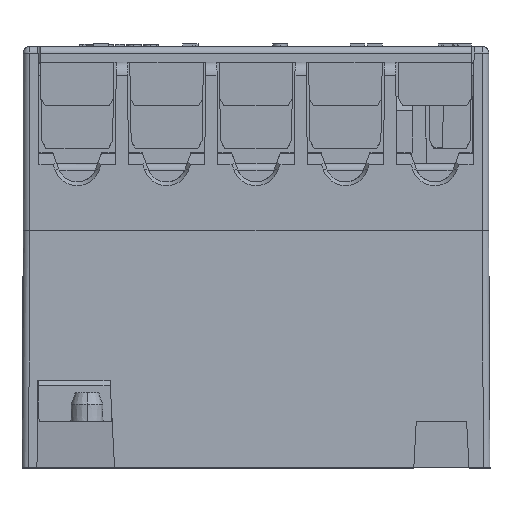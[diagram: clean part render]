
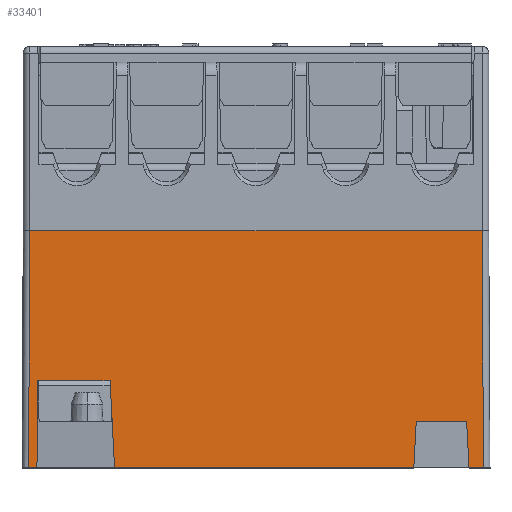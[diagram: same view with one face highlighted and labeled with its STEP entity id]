
A CAD part, top view. The second image highlights one B-rep face of the part: STEP entity #33401.
In plain terms, the highlighted planar face has unit normal (0, 0.005, 1).
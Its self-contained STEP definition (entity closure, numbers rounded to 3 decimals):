
#105 = DIRECTION ( 'NONE',  ( 1., 0., 0. ) ) ;
#749 = VERTEX_POINT ( 'NONE', #44532 ) ;
#1511 = CARTESIAN_POINT ( 'NONE',  ( 0., 0., 16.594 ) ) ;
#3998 = ORIENTED_EDGE ( 'NONE', *, *, #66597, .T. ) ;
#4409 = ORIENTED_EDGE ( 'NONE', *, *, #40151, .T. ) ;
#4573 = VECTOR ( 'NONE', #55852, 1000. ) ;
#4830 = CARTESIAN_POINT ( 'NONE',  ( 0., 3.5, 16.576 ) ) ;
#5017 = CARTESIAN_POINT ( 'NONE',  ( -16.658, 0., 16.594 ) ) ;
#5663 = DIRECTION ( 'NONE',  ( 1., 0., 0. ) ) ;
#5965 = VECTOR ( 'NONE', #32850, 1000. ) ;
#7338 = CARTESIAN_POINT ( 'NONE',  ( -11.1, 6.6, 16.56 ) ) ;
#7765 = DIRECTION ( 'NONE',  ( 1., 0., 0. ) ) ;
#8147 = VERTEX_POINT ( 'NONE', #35492 ) ;
#10031 = LINE ( 'NONE', #18415, #43750 ) ;
#10405 = EDGE_CURVE ( 'NONE', #65365, #37496, #59190, .T. ) ;
#11196 = DIRECTION ( 'NONE',  ( 1., 0., 0. ) ) ;
#13987 = PLANE ( 'NONE',  #41079 ) ;
#14678 = EDGE_CURVE ( 'NONE', #52394, #65365, #59550, .T. ) ;
#15547 = LINE ( 'NONE', #70782, #63999 ) ;
#15693 = LINE ( 'NONE', #34571, #64147 ) ;
#17064 = ORIENTED_EDGE ( 'NONE', *, *, #54380, .T. ) ;
#17453 = CARTESIAN_POINT ( 'NONE',  ( -11.714, 18.314, 16.498 ) ) ;
#18233 = ORIENTED_EDGE ( 'NONE', *, *, #70821, .F. ) ;
#18415 = CARTESIAN_POINT ( 'NONE',  ( -17.7, 18., 16.5 ) ) ;
#19255 = VECTOR ( 'NONE', #61638, 1000. ) ;
#20342 = CARTESIAN_POINT ( 'NONE',  ( -16.6, 6.6, 16.56 ) ) ;
#20763 = ORIENTED_EDGE ( 'NONE', *, *, #73972, .T. ) ;
#24527 = EDGE_LOOP ( 'NONE', ( #18233, #3998, #68759, #53581, #75453, #52033, #20763, #44023, #4409, #44412, #38884, #17064 ) ) ;
#25965 = CARTESIAN_POINT ( 'NONE',  ( 12.183, 3.5, 16.576 ) ) ;
#26726 = DIRECTION ( 'NONE',  ( 1., 0., 0. ) ) ;
#27668 = CARTESIAN_POINT ( 'NONE',  ( 17.2, 18., 16.5 ) ) ;
#28316 = FACE_OUTER_BOUND ( 'NONE', #24527, .T. ) ;
#28347 = VERTEX_POINT ( 'NONE', #53645 ) ;
#31577 = CARTESIAN_POINT ( 'NONE',  ( -11.1, 6.6, 16.56 ) ) ;
#32233 = VECTOR ( 'NONE', #68945, 1000. ) ;
#32776 = EDGE_CURVE ( 'NONE', #63935, #70906, #69847, .T. ) ;
#32850 = DIRECTION ( 'NONE',  ( -1., 0., 0. ) ) ;
#33372 = DIRECTION ( 'NONE',  ( 0., 0.005, 1. ) ) ;
#33401 = ADVANCED_FACE ( 'NONE', ( #28316 ), #13987, .T. ) ;
#33863 = CARTESIAN_POINT ( 'NONE',  ( 15.166, 19.722, 16.491 ) ) ;
#34571 = CARTESIAN_POINT ( 'NONE',  ( 12.005, 0.087, 16.594 ) ) ;
#35492 = CARTESIAN_POINT ( 'NONE',  ( 12., 0., 16.594 ) ) ;
#37035 = EDGE_CURVE ( 'NONE', #28347, #63935, #81770, .T. ) ;
#37496 = VERTEX_POINT ( 'NONE', #62182 ) ;
#38884 = ORIENTED_EDGE ( 'NONE', *, *, #10405, .T. ) ;
#39667 = CARTESIAN_POINT ( 'NONE',  ( 16.2, 0., 16.594 ) ) ;
#40151 = EDGE_CURVE ( 'NONE', #67615, #52394, #46740, .T. ) ;
#41079 = AXIS2_PLACEMENT_3D ( 'NONE', #71164, #33372, #77539 ) ;
#43651 = VECTOR ( 'NONE', #59533, 1000. ) ;
#43750 = VECTOR ( 'NONE', #5663, 1000. ) ;
#44023 = ORIENTED_EDGE ( 'NONE', *, *, #44373, .F. ) ;
#44331 = CARTESIAN_POINT ( 'NONE',  ( 0., 0., 16.594 ) ) ;
#44373 = EDGE_CURVE ( 'NONE', #67615, #8147, #15693, .T. ) ;
#44412 = ORIENTED_EDGE ( 'NONE', *, *, #14678, .T. ) ;
#44532 = CARTESIAN_POINT ( 'NONE',  ( -10.754, 0., 16.594 ) ) ;
#44746 = VECTOR ( 'NONE', #77993, 1000. ) ;
#44775 = VECTOR ( 'NONE', #11196, 1000. ) ;
#45665 = VERTEX_POINT ( 'NONE', #31577 ) ;
#46740 = LINE ( 'NONE', #4830, #44775 ) ;
#49524 = CARTESIAN_POINT ( 'NONE',  ( -16.501, 17.99, 16.5 ) ) ;
#50155 = VECTOR ( 'NONE', #105, 1000. ) ;
#52033 = ORIENTED_EDGE ( 'NONE', *, *, #78240, .F. ) ;
#52394 = VERTEX_POINT ( 'NONE', #73491 ) ;
#53165 = CARTESIAN_POINT ( 'NONE',  ( 17.199, 18.183, 16.499 ) ) ;
#53563 = DIRECTION ( 'NONE',  ( -0.052, -0.999, 0.005 ) ) ;
#53581 = ORIENTED_EDGE ( 'NONE', *, *, #32776, .T. ) ;
#53645 = CARTESIAN_POINT ( 'NONE',  ( -17.294, 0., 16.594 ) ) ;
#54380 = EDGE_CURVE ( 'NONE', #37496, #59600, #60394, .T. ) ;
#55852 = DIRECTION ( 'NONE',  ( 0.009, 1., -0.005 ) ) ;
#57195 = VECTOR ( 'NONE', #26726, 1000. ) ;
#59190 = LINE ( 'NONE', #1511, #57195 ) ;
#59533 = DIRECTION ( 'NONE',  ( -0.005, 1., -0.005 ) ) ;
#59550 = LINE ( 'NONE', #33863, #44746 ) ;
#59600 = VERTEX_POINT ( 'NONE', #27668 ) ;
#59678 = CARTESIAN_POINT ( 'NONE',  ( -17.2, 18., 16.5 ) ) ;
#60394 = LINE ( 'NONE', #53165, #43651 ) ;
#61638 = DIRECTION ( 'NONE',  ( -0.052, 0.999, -0.005 ) ) ;
#62182 = CARTESIAN_POINT ( 'NONE',  ( 17.294, 0., 16.594 ) ) ;
#63935 = VERTEX_POINT ( 'NONE', #5017 ) ;
#63999 = VECTOR ( 'NONE', #7765, 1000. ) ;
#64147 = VECTOR ( 'NONE', #53563, 1000. ) ;
#64359 = VERTEX_POINT ( 'NONE', #59678 ) ;
#65365 = VERTEX_POINT ( 'NONE', #39667 ) ;
#66597 = EDGE_CURVE ( 'NONE', #64359, #28347, #67783, .T. ) ;
#67615 = VERTEX_POINT ( 'NONE', #25965 ) ;
#67783 = LINE ( 'NONE', #69231, #32233 ) ;
#68759 = ORIENTED_EDGE ( 'NONE', *, *, #37035, .T. ) ;
#68945 = DIRECTION ( 'NONE',  ( -0.005, -1., 0.005 ) ) ;
#69231 = CARTESIAN_POINT ( 'NONE',  ( -17.2, 17.997, 16.5 ) ) ;
#69630 = LINE ( 'NONE', #17453, #19255 ) ;
#69847 = LINE ( 'NONE', #49524, #4573 ) ;
#70782 = CARTESIAN_POINT ( 'NONE',  ( 0., 0., 16.594 ) ) ;
#70821 = EDGE_CURVE ( 'NONE', #64359, #59600, #10031, .T. ) ;
#70906 = VERTEX_POINT ( 'NONE', #20342 ) ;
#71164 = CARTESIAN_POINT ( 'NONE',  ( -17.7, 18., 16.5 ) ) ;
#73214 = LINE ( 'NONE', #7338, #5965 ) ;
#73491 = CARTESIAN_POINT ( 'NONE',  ( 16.017, 3.5, 16.576 ) ) ;
#73972 = EDGE_CURVE ( 'NONE', #749, #8147, #15547, .T. ) ;
#75453 = ORIENTED_EDGE ( 'NONE', *, *, #80882, .F. ) ;
#77539 = DIRECTION ( 'NONE',  ( 0., -1., 0.005 ) ) ;
#77993 = DIRECTION ( 'NONE',  ( 0.052, -0.999, 0.005 ) ) ;
#78240 = EDGE_CURVE ( 'NONE', #749, #45665, #69630, .T. ) ;
#80882 = EDGE_CURVE ( 'NONE', #45665, #70906, #73214, .T. ) ;
#81770 = LINE ( 'NONE', #44331, #50155 ) ;
